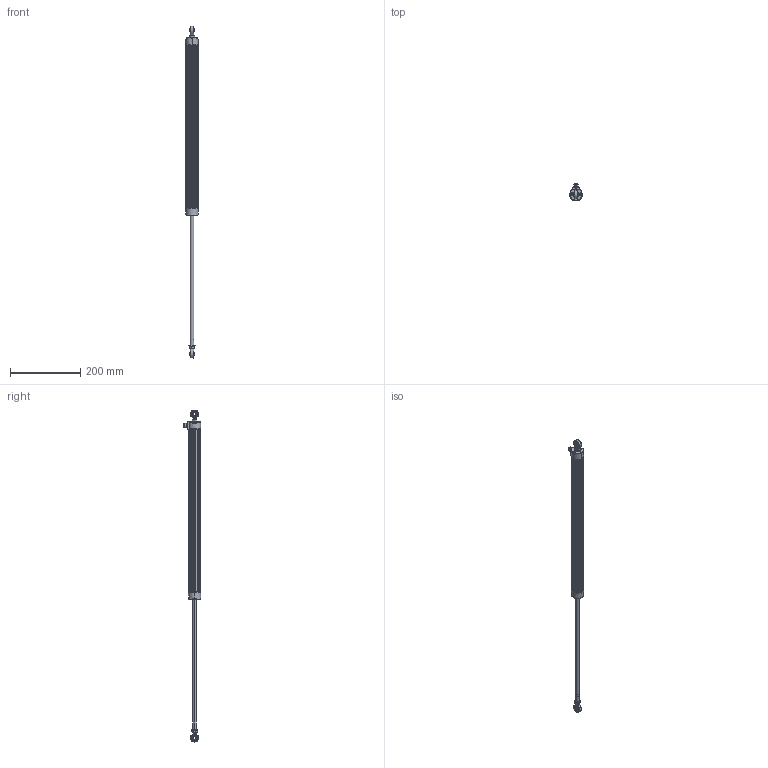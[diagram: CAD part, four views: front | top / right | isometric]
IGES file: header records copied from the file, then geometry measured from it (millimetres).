
Start section: SolidWorks IGES file using analytic representation for surfaces
Global section: file name: I:\Zeichnungen_EK-VM\ZUR BEARBEITUNG\neu_sz\LWG\Bew\0360.IGS; native system: SolidWorks 2009; preprocessor: SolidWorks 2009; author: salzinger; date: 090129.110541; units: millimetre
Bounding box: 35.03 x 49.52 x 942.6 mm (x, y, z)
Volume: 511123.2 mm3; surface area: 106638.3 mm2
Topology: 16 solids, 16 shells, 996 faces, 5312 edges, 6841 vertices
Faces by surface type: revolution 515, plane 294, bspline 187
